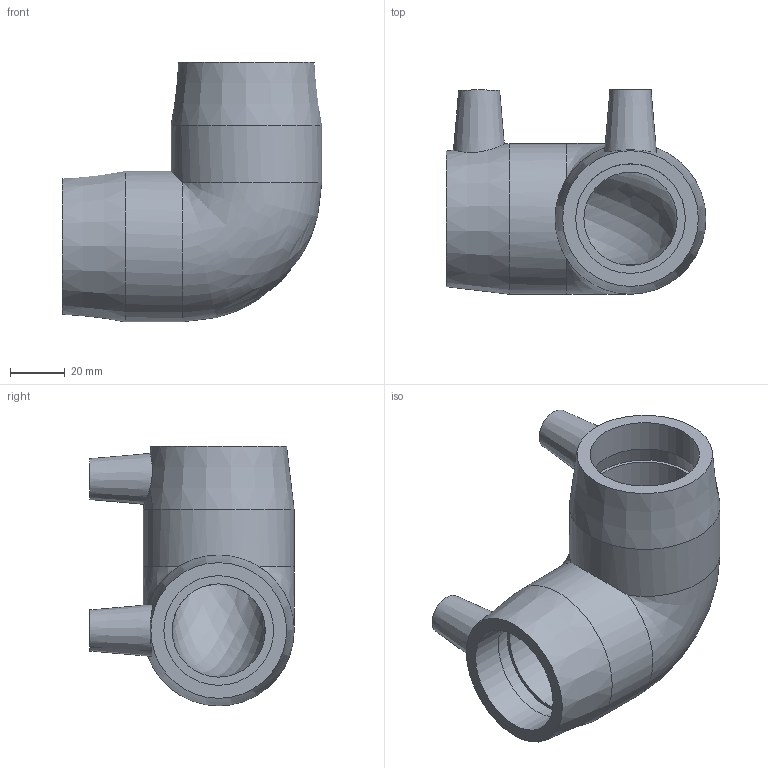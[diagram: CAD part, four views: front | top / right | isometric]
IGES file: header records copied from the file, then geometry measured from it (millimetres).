
Global section: file name: 490504040.ipt; native system: Autodesk Inventor 2015; preprocessor: unknown; author: KIM; date: 20171106.093626; units: millimetre
Bounding box: 94.75 x 74.5 x 94.75 mm (x, y, z)
Volume: 149201 mm3; surface area: 41794.6 mm2
Topology: 1 solids, 1 shells, 30 faces, 68 edges, 46 vertices
Faces by surface type: plane 12, revolution 9, cylinder 4, cone 4, bspline 1
Full cylindrical faces by diameter (mm): 4 x2, 55 x2
